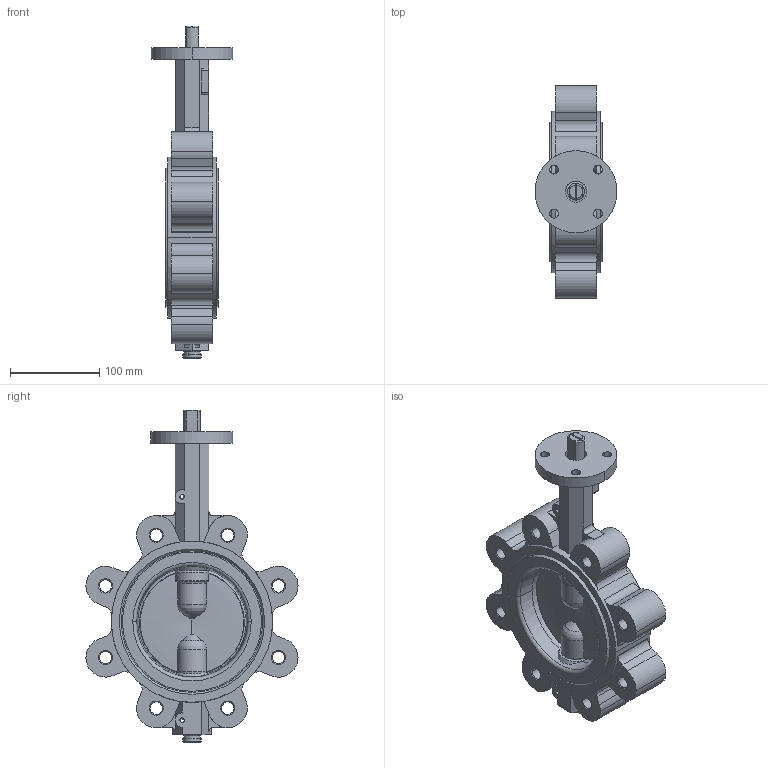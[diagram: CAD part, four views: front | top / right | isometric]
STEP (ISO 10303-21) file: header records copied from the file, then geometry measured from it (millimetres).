
FILE_DESCRIPTION(('Open CASCADE Model'),'2;1');
FILE_NAME('Open CASCADE Shape Model','2022-03-10T12:02:45',('Author'),( 'Open CASCADE'),'Open CASCADE STEP processor 7.3','Open CASCADE 7.3' ,'Unknown');
FILE_SCHEMA(('AUTOMOTIVE_DESIGN { 1 0 10303 214 1 1 1 1 }'));
Length unit declared in the file: millimetre
Products named in the file (10): Open CASCADE STEP translator 7.3 1; Open CASCADE STEP translator 7.3 1.1; Open CASCADE STEP translator 7.3 1.2; Open CASCADE STEP translator 7.3 1.3; Open CASCADE STEP translator 7.3 1.4; Open CASCADE STEP translator 7.3 1.5; Open CASCADE STEP translator 7.3 1.6; Open CASCADE STEP translator 7.3 1.7; Open CASCADE STEP translator 7.3 1.8; Open CASCADE STEP translator 7.3 1.9
Assembly tree (9 placements, depth 2):
  Open CASCADE STEP translator 7.3 1
    Open CASCADE STEP translator 7.3 1.1
    Open CASCADE STEP translator 7.3 1.2
    Open CASCADE STEP translator 7.3 1.3
    Open CASCADE STEP translator 7.3 1.4
    Open CASCADE STEP translator 7.3 1.5
    Open CASCADE STEP translator 7.3 1.6
    Open CASCADE STEP translator 7.3 1.7
    Open CASCADE STEP translator 7.3 1.8
    Open CASCADE STEP translator 7.3 1.9
Bounding box: 92 x 237.99 x 372.51 mm (x, y, z)
Volume: 1659446 mm3; surface area: 297939.6 mm2
Topology: 9 solids, 9 shells, 392 faces, 1000 edges, 636 vertices
Faces by surface type: cylinder 140, plane 127, cone 72, torus 45, revolution 8
Entity records: 36534 total; most frequent: CARTESIAN_POINT 16974, DIRECTION 3583, ORIENTED_EDGE 1984, PCURVE 1984, DEFINITIONAL_REPRESENTATION 1984, LINE 1785, VECTOR 1785, EDGE_CURVE 992
